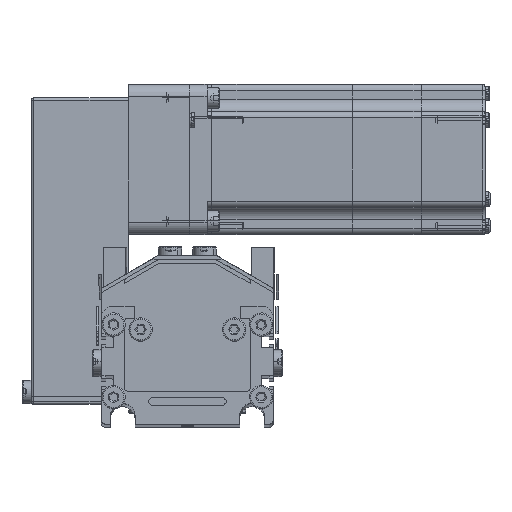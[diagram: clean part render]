
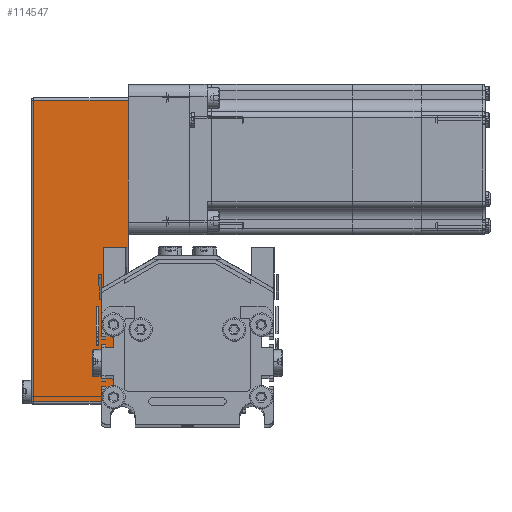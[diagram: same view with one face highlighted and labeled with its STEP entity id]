
A CAD part, top view. The second image highlights one B-rep face of the part: STEP entity #114547.
In plain terms, the highlighted planar face has unit normal (0, 0, 1) as drawn and (0, -1, 0) by its records, which use the part's own axes.
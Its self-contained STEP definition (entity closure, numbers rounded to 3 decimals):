
#16084 = AXIS2_PLACEMENT_3D ( 'NONE', #16141, #16127, #16126 ) ;
#16126 = DIRECTION ( 'NONE',  ( 0., 0., 1. ) ) ;
#16127 = DIRECTION ( 'NONE',  ( 0., 1., 0. ) ) ;
#16131 = FACE_OUTER_BOUND ( 'NONE', #115233, .T. ) ;
#16137 = PLANE ( 'NONE',  #16084 ) ;
#16141 = CARTESIAN_POINT ( 'NONE',  ( -50., -25., 39.5 ) ) ;
#16182 = DIRECTION ( 'NONE',  ( -1., 0., 0. ) ) ;
#16183 = VECTOR ( 'NONE', #16182, 1000. ) ;
#16184 = CARTESIAN_POINT ( 'NONE',  ( -50., -25., 38.5 ) ) ;
#16185 = LINE ( 'NONE', #16184, #16183 ) ;
#16219 = CARTESIAN_POINT ( 'NONE',  ( 73.5, -25., 0. ) ) ;
#16238 = CARTESIAN_POINT ( 'NONE',  ( -49., -25., 0. ) ) ;
#16367 = CARTESIAN_POINT ( 'NONE',  ( -49., -25., 38.5 ) ) ;
#16497 = DIRECTION ( 'NONE',  ( 1., 0., 0. ) ) ;
#16498 = VECTOR ( 'NONE', #16497, 1000. ) ;
#16499 = CARTESIAN_POINT ( 'NONE',  ( -50., -25., 0. ) ) ;
#16507 = LINE ( 'NONE', #16499, #16498 ) ;
#16586 = CARTESIAN_POINT ( 'NONE',  ( 73.5, -25., 38.5 ) ) ;
#16636 = CARTESIAN_POINT ( 'NONE',  ( -49., -25., 39.5 ) ) ;
#16637 = LINE ( 'NONE', #16636, #16676 ) ;
#16671 = DIRECTION ( 'NONE',  ( 0., 0., 1. ) ) ;
#16674 = VECTOR ( 'NONE', #16671, 1000. ) ;
#16675 = DIRECTION ( 'NONE',  ( 0., 0., -1. ) ) ;
#16676 = VECTOR ( 'NONE', #16675, 1000. ) ;
#16682 = CARTESIAN_POINT ( 'NONE',  ( 73.5, -25., 39.5 ) ) ;
#16684 = LINE ( 'NONE', #16682, #16674 ) ;
#114547 = ADVANCED_FACE ( 'NONE', ( #16131 ), #16137, .F. ) ;
#114559 = EDGE_CURVE ( 'NONE', #115247, #114832, #16185, .T. ) ;
#114569 = ORIENTED_EDGE ( 'NONE', *, *, #115438, .T. ) ;
#114695 = VERTEX_POINT ( 'NONE', #16219 ) ;
#114717 = VERTEX_POINT ( 'NONE', #16238 ) ;
#114832 = VERTEX_POINT ( 'NONE', #16367 ) ;
#115148 = EDGE_CURVE ( 'NONE', #114717, #114695, #16507, .T. ) ;
#115233 = EDGE_LOOP ( 'NONE', ( #115366, #114569, #115332, #115343 ) ) ;
#115247 = VERTEX_POINT ( 'NONE', #16586 ) ;
#115332 = ORIENTED_EDGE ( 'NONE', *, *, #115148, .T. ) ;
#115343 = ORIENTED_EDGE ( 'NONE', *, *, #115443, .T. ) ;
#115366 = ORIENTED_EDGE ( 'NONE', *, *, #114559, .T. ) ;
#115438 = EDGE_CURVE ( 'NONE', #114832, #114717, #16637, .T. ) ;
#115443 = EDGE_CURVE ( 'NONE', #114695, #115247, #16684, .T. ) ;
